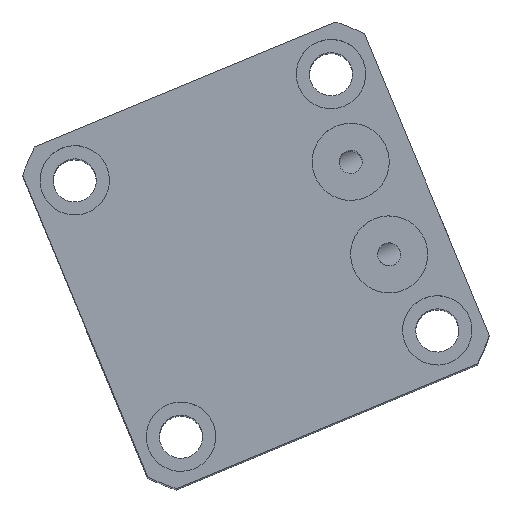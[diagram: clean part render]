
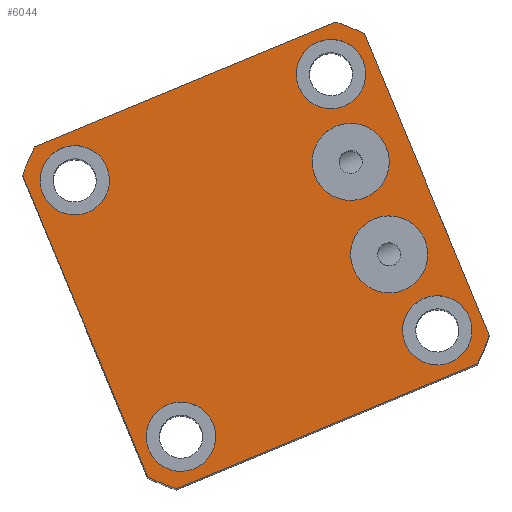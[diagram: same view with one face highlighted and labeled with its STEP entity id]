
A CAD part, top view. The second image highlights one B-rep face of the part: STEP entity #6044.
In plain terms, the highlighted planar face has unit normal (0, 0, 1).
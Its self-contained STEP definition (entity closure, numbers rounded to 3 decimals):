
#2969=LINE('',#16667,#3857);
#2973=LINE('',#17027,#3861);
#2977=LINE('',#17036,#3865);
#2981=LINE('',#17045,#3869);
#3857=VECTOR('',#12631,1.);
#3861=VECTOR('',#12749,1.);
#3865=VECTOR('',#12755,1.);
#3869=VECTOR('',#12761,1.);
#4866=PLANE('',#12207);
#6044=ADVANCED_FACE('',(#6564,#6565,#6566,#6567,#6568,#6569,#6570),#4866,
 .F.);
#6564=FACE_BOUND('',#6751,.T.);
#6565=FACE_BOUND('',#6752,.T.);
#6566=FACE_BOUND('',#6753,.T.);
#6567=FACE_BOUND('',#6754,.T.);
#6568=FACE_BOUND('',#6755,.T.);
#6569=FACE_BOUND('',#6756,.T.);
#6570=FACE_BOUND('',#6757,.T.);
#6751=EDGE_LOOP('',(#7404));
#6752=EDGE_LOOP('',(#7405));
#6753=EDGE_LOOP('',(#7406));
#6754=EDGE_LOOP('',(#7407));
#6755=EDGE_LOOP('',(#7408));
#6756=EDGE_LOOP('',(#7409));
#6757=EDGE_LOOP('',(#7410,#7411,#7412,#7413,#7414,#7415,#7416,#7417));
#7404=ORIENTED_EDGE('',*,*,#10780,.F.);
#7405=ORIENTED_EDGE('',*,*,#10782,.F.);
#7406=ORIENTED_EDGE('',*,*,#10792,.F.);
#7407=ORIENTED_EDGE('',*,*,#10794,.F.);
#7408=ORIENTED_EDGE('',*,*,#10796,.F.);
#7409=ORIENTED_EDGE('',*,*,#10798,.F.);
#7410=ORIENTED_EDGE('',*,*,#10832,.F.);
#7411=ORIENTED_EDGE('',*,*,#10817,.F.);
#7412=ORIENTED_EDGE('',*,*,#10833,.F.);
#7413=ORIENTED_EDGE('',*,*,#10825,.F.);
#7414=ORIENTED_EDGE('',*,*,#10834,.F.);
#7415=ORIENTED_EDGE('',*,*,#10821,.F.);
#7416=ORIENTED_EDGE('',*,*,#10835,.F.);
#7417=ORIENTED_EDGE('',*,*,#10773,.F.);
#9864=VERTEX_POINT('',#16665);
#9866=VERTEX_POINT('',#16668);
#9872=VERTEX_POINT('',#16816);
#9874=VERTEX_POINT('',#16821);
#9883=VERTEX_POINT('',#16965);
#9885=VERTEX_POINT('',#16970);
#9887=VERTEX_POINT('',#16975);
#9889=VERTEX_POINT('',#16980);
#9907=VERTEX_POINT('',#17025);
#9909=VERTEX_POINT('',#17028);
#9911=VERTEX_POINT('',#17034);
#9913=VERTEX_POINT('',#17037);
#9915=VERTEX_POINT('',#17043);
#9917=VERTEX_POINT('',#17046);
#10773=EDGE_CURVE('',#9864,#9866,#2969,.T.);
#10780=EDGE_CURVE('',#9872,#9872,#12037,.T.);
#10782=EDGE_CURVE('',#9874,#9874,#12039,.T.);
#10792=EDGE_CURVE('',#9883,#9883,#12047,.T.);
#10794=EDGE_CURVE('',#9885,#9885,#12049,.T.);
#10796=EDGE_CURVE('',#9887,#9887,#12051,.T.);
#10798=EDGE_CURVE('',#9889,#9889,#12053,.T.);
#10817=EDGE_CURVE('',#9907,#9909,#2973,.T.);
#10821=EDGE_CURVE('',#9911,#9913,#2977,.T.);
#10825=EDGE_CURVE('',#9915,#9917,#2981,.T.);
#10832=EDGE_CURVE('',#9909,#9864,#12075,.T.);
#10833=EDGE_CURVE('',#9917,#9907,#12076,.T.);
#10834=EDGE_CURVE('',#9913,#9915,#12077,.T.);
#10835=EDGE_CURVE('',#9866,#9911,#12078,.T.);
#12037=CIRCLE('',#12143,5.);
#12039=CIRCLE('',#12146,5.);
#12047=CIRCLE('',#12159,4.5);
#12049=CIRCLE('',#12162,4.5);
#12051=CIRCLE('',#12165,4.5);
#12053=CIRCLE('',#12168,4.5);
#12075=CIRCLE('',#12203,32.);
#12076=CIRCLE('',#12204,32.);
#12077=CIRCLE('',#12205,32.);
#12078=CIRCLE('',#12206,32.);
#12143=AXIS2_PLACEMENT_3D('',#16815,#12644,#12645);
#12146=AXIS2_PLACEMENT_3D('',#16820,#12650,#12651);
#12159=AXIS2_PLACEMENT_3D('',#16964,#12676,#12677);
#12162=AXIS2_PLACEMENT_3D('',#16969,#12682,#12683);
#12165=AXIS2_PLACEMENT_3D('',#16974,#12688,#12689);
#12168=AXIS2_PLACEMENT_3D('',#16979,#12694,#12695);
#12203=AXIS2_PLACEMENT_3D('',#17056,#12776,#12777);
#12204=AXIS2_PLACEMENT_3D('',#17057,#12778,#12779);
#12205=AXIS2_PLACEMENT_3D('',#17058,#12780,#12781);
#12206=AXIS2_PLACEMENT_3D('',#17059,#12782,#12783);
#12207=AXIS2_PLACEMENT_3D('',#17060,#12784,#12785);
#12631=DIRECTION('',(0.924,0.383,0.));
#12644=DIRECTION('',(0.,0.,1.));
#12645=DIRECTION('',(0.924,0.383,0.));
#12650=DIRECTION('',(0.,0.,1.));
#12651=DIRECTION('',(0.924,0.383,0.));
#12676=DIRECTION('',(0.,0.,1.));
#12677=DIRECTION('',(0.924,0.383,0.));
#12682=DIRECTION('',(0.,0.,1.));
#12683=DIRECTION('',(0.924,0.383,0.));
#12688=DIRECTION('',(0.,0.,1.));
#12689=DIRECTION('',(0.924,0.383,0.));
#12694=DIRECTION('',(0.,0.,1.));
#12695=DIRECTION('',(0.924,0.383,0.));
#12749=DIRECTION('',(-0.383,0.924,0.));
#12755=DIRECTION('',(0.383,-0.924,0.));
#12761=DIRECTION('',(-0.924,-0.383,0.));
#12776=DIRECTION('',(0.,0.,-1.));
#12777=DIRECTION('',(-0.924,-0.383,0.));
#12778=DIRECTION('',(0.,0.,-1.));
#12779=DIRECTION('',(-0.924,-0.383,0.));
#12780=DIRECTION('',(0.,0.,-1.));
#12781=DIRECTION('',(-0.924,-0.383,0.));
#12782=DIRECTION('',(0.,0.,-1.));
#12783=DIRECTION('',(-0.924,-0.383,0.));
#12784=DIRECTION('',(0.,0.,-1.));
#12785=DIRECTION('',(0.924,0.383,0.));
#16665=CARTESIAN_POINT('',(-119.206,38.51,116.033));
#16667=CARTESIAN_POINT('',(-77.485,55.811,116.033));
#16668=CARTESIAN_POINT('',(-80.103,54.726,116.033));
#16815=CARTESIAN_POINT('',(-73.192,24.573,116.033));
#16816=CARTESIAN_POINT('',(-68.574,26.488,116.033));
#16820=CARTESIAN_POINT('',(-78.172,36.581,116.033));
#16821=CARTESIAN_POINT('',(-73.553,38.497,116.033));
#16964=CARTESIAN_POINT('',(-100.194,0.926,116.033));
#16965=CARTESIAN_POINT('',(-96.037,2.65,116.033));
#16969=CARTESIAN_POINT('',(-66.94,14.716,116.033));
#16970=CARTESIAN_POINT('',(-62.783,16.44,116.033));
#16974=CARTESIAN_POINT('',(-80.729,47.97,116.033));
#16975=CARTESIAN_POINT('',(-76.573,49.694,116.033));
#16979=CARTESIAN_POINT('',(-113.984,34.181,116.033));
#16980=CARTESIAN_POINT('',(-109.827,35.904,116.033));
#17025=CARTESIAN_POINT('',(-104.523,-4.296,116.033));
#17027=CARTESIAN_POINT('',(-121.824,37.425,116.033));
#17028=CARTESIAN_POINT('',(-120.739,34.807,116.033));
#17034=CARTESIAN_POINT('',(-76.4,53.193,116.033));
#17036=CARTESIAN_POINT('',(-77.485,55.811,116.033));
#17037=CARTESIAN_POINT('',(-60.185,14.09,116.033));
#17043=CARTESIAN_POINT('',(-61.717,10.387,116.033));
#17045=CARTESIAN_POINT('',(-59.099,11.472,116.033));
#17046=CARTESIAN_POINT('',(-100.82,-5.829,116.033));
#17056=CARTESIAN_POINT('',(-90.462,24.448,116.033));
#17057=CARTESIAN_POINT('',(-90.462,24.448,116.033));
#17058=CARTESIAN_POINT('',(-90.462,24.448,116.033));
#17059=CARTESIAN_POINT('',(-90.462,24.448,116.033));
#17060=CARTESIAN_POINT('',(-90.462,24.448,116.033));
